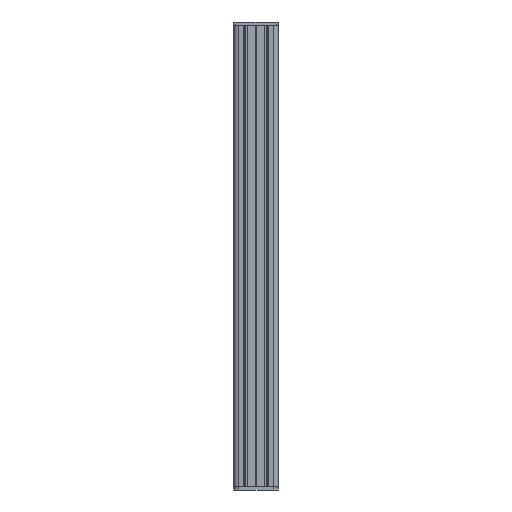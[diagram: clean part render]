
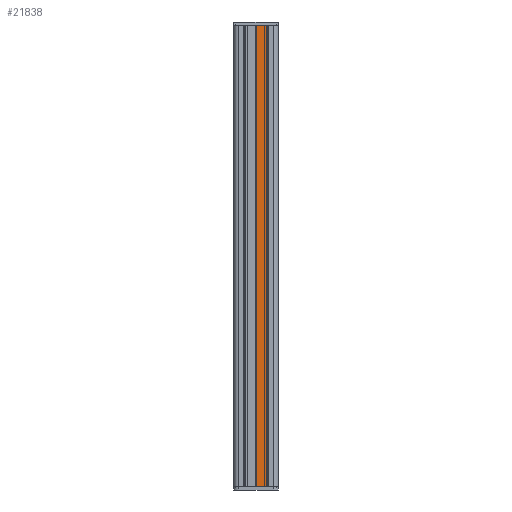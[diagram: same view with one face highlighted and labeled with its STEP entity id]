
A CAD part, left-side view. The second image highlights one B-rep face of the part: STEP entity #21838.
In plain terms, the highlighted planar face has unit normal (-1, 0, 0) as drawn and (0, -1, 0) by its records, which use the part's own axes.
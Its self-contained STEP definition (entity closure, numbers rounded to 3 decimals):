
#524 = LINE ( 'NONE', #7548, #9667 ) ;
#584 = LINE ( 'NONE', #12671, #20950 ) ;
#629 = VERTEX_POINT ( 'NONE', #25335 ) ;
#2345 = DIRECTION ( 'NONE',  ( 0., -1., 0. ) ) ;
#2545 = EDGE_CURVE ( 'NONE', #629, #13490, #524, .T. ) ;
#3173 = VERTEX_POINT ( 'NONE', #11585 ) ;
#4638 = PLANE ( 'NONE',  #8296 ) ;
#7287 = LINE ( 'NONE', #16639, #19941 ) ;
#7548 = CARTESIAN_POINT ( 'NONE',  ( 6.75, -5., -225. ) ) ;
#7881 = EDGE_LOOP ( 'NONE', ( #12754, #11532, #11153, #19442 ) ) ;
#8173 = CARTESIAN_POINT ( 'NONE',  ( 16.279, -5., -225. ) ) ;
#8296 = AXIS2_PLACEMENT_3D ( 'NONE', #13976, #2345, #21034 ) ;
#8817 = CARTESIAN_POINT ( 'NONE',  ( 6.75, -5., 225. ) ) ;
#9667 = VECTOR ( 'NONE', #18890, 1000. ) ;
#10250 = EDGE_CURVE ( 'NONE', #24583, #3173, #19813, .T. ) ;
#11153 = ORIENTED_EDGE ( 'NONE', *, *, #17181, .F. ) ;
#11532 = ORIENTED_EDGE ( 'NONE', *, *, #10250, .T. ) ;
#11585 = CARTESIAN_POINT ( 'NONE',  ( 16.279, -5., 225. ) ) ;
#12026 = DIRECTION ( 'NONE',  ( 1., 0., 0. ) ) ;
#12671 = CARTESIAN_POINT ( 'NONE',  ( 8., -5., -225. ) ) ;
#12754 = ORIENTED_EDGE ( 'NONE', *, *, #21123, .T. ) ;
#13490 = VERTEX_POINT ( 'NONE', #8817 ) ;
#13976 = CARTESIAN_POINT ( 'NONE',  ( 8., -5., -225. ) ) ;
#16560 = VECTOR ( 'NONE', #17529, 1000. ) ;
#16639 = CARTESIAN_POINT ( 'NONE',  ( 8., -5., 225. ) ) ;
#17181 = EDGE_CURVE ( 'NONE', #13490, #3173, #7287, .T. ) ;
#17529 = DIRECTION ( 'NONE',  ( 0., 0., 1. ) ) ;
#18890 = DIRECTION ( 'NONE',  ( 0., 0., 1. ) ) ;
#19262 = DIRECTION ( 'NONE',  ( 1., 0., 0. ) ) ;
#19442 = ORIENTED_EDGE ( 'NONE', *, *, #2545, .F. ) ;
#19813 = LINE ( 'NONE', #8173, #16560 ) ;
#19941 = VECTOR ( 'NONE', #12026, 1000. ) ;
#20950 = VECTOR ( 'NONE', #19262, 1000. ) ;
#21034 = DIRECTION ( 'NONE',  ( 1., 0., 0. ) ) ;
#21123 = EDGE_CURVE ( 'NONE', #629, #24583, #584, .T. ) ;
#21838 = ADVANCED_FACE ( 'NONE', ( #25596 ), #4638, .T. ) ;
#24583 = VERTEX_POINT ( 'NONE', #25299 ) ;
#25299 = CARTESIAN_POINT ( 'NONE',  ( 16.279, -5., -225. ) ) ;
#25335 = CARTESIAN_POINT ( 'NONE',  ( 6.75, -5., -225. ) ) ;
#25596 = FACE_OUTER_BOUND ( 'NONE', #7881, .T. ) ;
